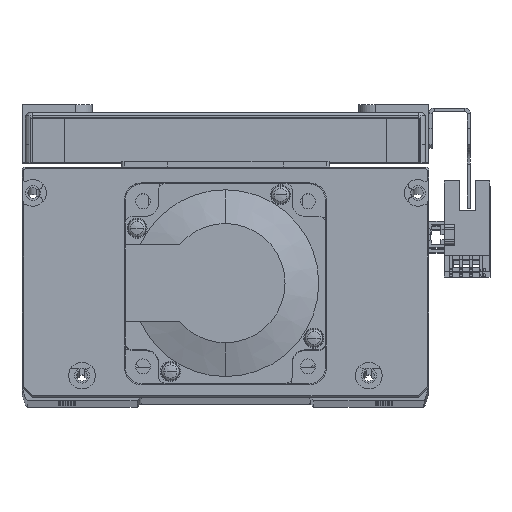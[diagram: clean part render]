
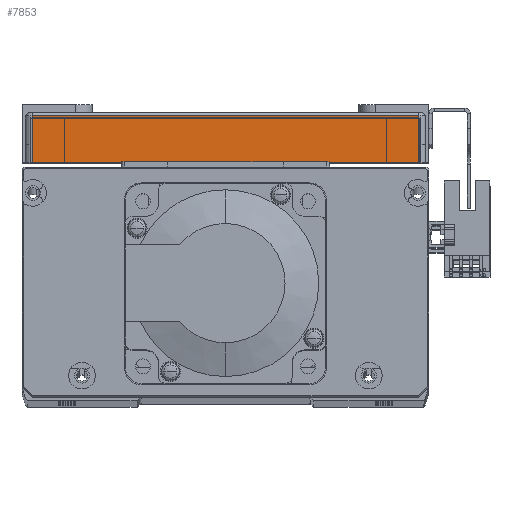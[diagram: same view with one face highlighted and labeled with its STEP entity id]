
A CAD part, top view. The second image highlights one B-rep face of the part: STEP entity #7853.
In plain terms, the highlighted planar face has unit normal (0, 0, 1) as drawn and (1, 0, 0) by its records, which use the part's own axes.
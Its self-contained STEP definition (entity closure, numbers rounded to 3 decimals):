
#2567 = EDGE_CURVE ( 'NONE', #18741, #18786, #48710, .T. ) ;
#2609 = EDGE_CURVE ( 'NONE', #18836, #18741, #48892, .T. ) ;
#2645 = EDGE_CURVE ( 'NONE', #18786, #18826, #48996, .T. ) ;
#2654 = EDGE_CURVE ( 'NONE', #18826, #18836, #49090, .T. ) ;
#7853 = ADVANCED_FACE ( 'NONE', ( #40814 ), #30706, .F. ) ;
#8516 = CARTESIAN_POINT ( 'NONE',  ( 82.5, 14., -58. ) ) ;
#8531 = CARTESIAN_POINT ( 'NONE',  ( 82.5, 0., -58. ) ) ;
#8578 = CARTESIAN_POINT ( 'NONE',  ( 82.5, 0., 58. ) ) ;
#8620 = CARTESIAN_POINT ( 'NONE',  ( 82.5, 14., 58. ) ) ;
#18741 = VERTEX_POINT ( 'NONE', #8531 ) ;
#18786 = VERTEX_POINT ( 'NONE', #8516 ) ;
#18826 = VERTEX_POINT ( 'NONE', #8620 ) ;
#18836 = VERTEX_POINT ( 'NONE', #8578 ) ;
#22982 = ORIENTED_EDGE ( 'NONE', *, *, #2645, .T. ) ;
#23015 = ORIENTED_EDGE ( 'NONE', *, *, #2567, .T. ) ;
#23029 = ORIENTED_EDGE ( 'NONE', *, *, #2609, .T. ) ;
#23045 = ORIENTED_EDGE ( 'NONE', *, *, #2654, .T. ) ;
#30667 = CARTESIAN_POINT ( 'NONE',  ( 82.5, 15., -60. ) ) ;
#30691 = DIRECTION ( 'NONE',  ( -1., 0., 0. ) ) ;
#30694 = DIRECTION ( 'NONE',  ( 0., 0., 1. ) ) ;
#30706 = PLANE ( 'NONE',  #43951 ) ;
#39913 = CARTESIAN_POINT ( 'NONE',  ( 82.5, 15., -58. ) ) ;
#39918 = DIRECTION ( 'NONE',  ( 0., 1., 0. ) ) ;
#40015 = CARTESIAN_POINT ( 'NONE',  ( 82.5, 0., -60. ) ) ;
#40020 = DIRECTION ( 'NONE',  ( 0., 0., -1. ) ) ;
#40092 = DIRECTION ( 'NONE',  ( 0., 0., 1. ) ) ;
#40119 = CARTESIAN_POINT ( 'NONE',  ( 82.5, 14., 58. ) ) ;
#40814 = FACE_OUTER_BOUND ( 'NONE', #54017, .T. ) ;
#43951 = AXIS2_PLACEMENT_3D ( 'NONE', #30667, #30691, #30694 ) ;
#44493 = DIRECTION ( 'NONE',  ( 0., -1., 0. ) ) ;
#44658 = CARTESIAN_POINT ( 'NONE',  ( 82.5, 15., 58. ) ) ;
#48710 = LINE ( 'NONE', #39913, #48714 ) ;
#48714 = VECTOR ( 'NONE', #39918, 1000. ) ;
#48892 = LINE ( 'NONE', #40015, #48980 ) ;
#48980 = VECTOR ( 'NONE', #40020, 1000. ) ;
#48996 = LINE ( 'NONE', #40119, #49120 ) ;
#49090 = LINE ( 'NONE', #44658, #49122 ) ;
#49120 = VECTOR ( 'NONE', #40092, 1000. ) ;
#49122 = VECTOR ( 'NONE', #44493, 1000. ) ;
#54017 = EDGE_LOOP ( 'NONE', ( #23015, #22982, #23045, #23029 ) ) ;
